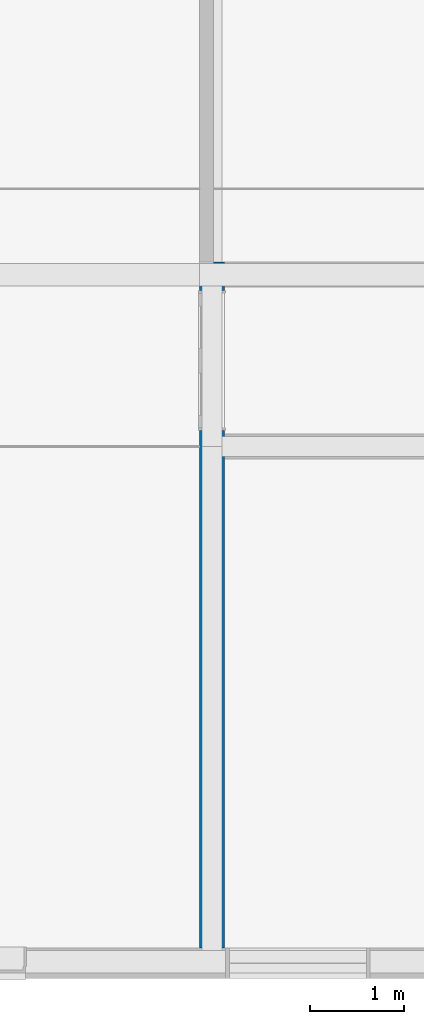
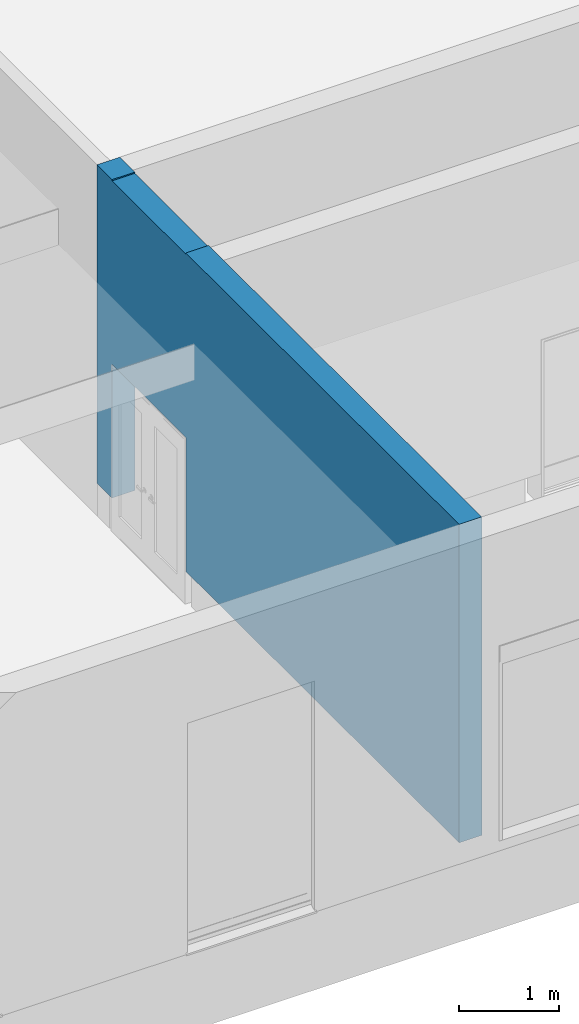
# One storey, part 2 of 22: 1 wall, 2 openings.
"""IFC4X3 building model written with IfcOpenShell, lengths in millimetres."""

from ifc_helpers import new_model, entity, si_unit, converted_unit, derived_unit, direction, frame, frame_2d, origin, place, context, subcontext, project, spatial, rectangle, extrude, material, layer, layer_set, type_object, element, save


model = new_model("IFC4X3")

# Units and contexts
model_context = context("Model", 3, precision=0.01, world=origin(), true_north=direction((6.12303176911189e-17, 1.0)))
body_context = subcontext(model_context, "Body", "Model", "MODEL_VIEW")
ifc_project = project(units=[si_unit("LENGTHUNIT", "METRE", prefix="MILLI"), si_unit("AREAUNIT", "SQUARE_METRE"), si_unit("VOLUMEUNIT", "CUBIC_METRE"), converted_unit("PLANEANGLEUNIT", "DEGREE", entity("IfcPlaneAngleMeasure", 0.0174532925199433), si_unit("PLANEANGLEUNIT", "RADIAN"), dimensions=[0, 0, 0, 0, 0, 0, 0]), si_unit("MASSUNIT", "GRAM", prefix="KILO"), derived_unit("MASSDENSITYUNIT", [(si_unit("MASSUNIT", "GRAM", prefix="KILO"), 1), (si_unit("LENGTHUNIT", "METRE"), -3)]), derived_unit("IONCONCENTRATIONUNIT", [(si_unit("MASSUNIT", "GRAM", prefix="KILO"), 1), (si_unit("LENGTHUNIT", "METRE"), -3)]), derived_unit("MOMENTOFINERTIAUNIT", [(si_unit("LENGTHUNIT", "METRE"), 4)]), si_unit("TIMEUNIT", "SECOND"), si_unit("FREQUENCYUNIT", "HERTZ"), si_unit("THERMODYNAMICTEMPERATUREUNIT", "DEGREE_CELSIUS"), derived_unit("THERMALTRANSMITTANCEUNIT", [(si_unit("MASSUNIT", "GRAM", prefix="KILO"), 1), (si_unit("THERMODYNAMICTEMPERATUREUNIT", "KELVIN"), -1), (si_unit("TIMEUNIT", "SECOND"), -3)]), derived_unit("THERMALCONDUCTANCEUNIT", [(si_unit("MASSUNIT", "GRAM", prefix="KILO"), 1), (si_unit("THERMODYNAMICTEMPERATUREUNIT", "KELVIN"), -1), (si_unit("TIMEUNIT", "SECOND"), -3), (si_unit("LENGTHUNIT", "METRE"), 1)]), derived_unit("VOLUMETRICFLOWRATEUNIT", [(si_unit("LENGTHUNIT", "METRE", prefix="DECI"), 3), (si_unit("TIMEUNIT", "SECOND"), -1)]), derived_unit("MASSFLOWRATEUNIT", [(si_unit("MASSUNIT", "GRAM", prefix="KILO"), 1), (si_unit("TIMEUNIT", "SECOND"), -1)]), derived_unit("ROTATIONALFREQUENCYUNIT", [(si_unit("TIMEUNIT", "SECOND"), -1)]), si_unit("ELECTRICCURRENTUNIT", "AMPERE"), si_unit("ELECTRICVOLTAGEUNIT", "VOLT"), si_unit("POWERUNIT", "WATT"), si_unit("FORCEUNIT", "NEWTON", prefix="KILO"), si_unit("ILLUMINANCEUNIT", "LUX"), si_unit("LUMINOUSFLUXUNIT", "LUMEN"), si_unit("LUMINOUSINTENSITYUNIT", "CANDELA"), si_unit("ENERGYUNIT", "JOULE"), derived_unit("USERDEFINED", [(si_unit("MASSUNIT", "GRAM", prefix="KILO"), -1), (si_unit("LENGTHUNIT", "METRE"), -2), (si_unit("TIMEUNIT", "SECOND"), 3), (si_unit("LUMINOUSFLUXUNIT", "LUMEN"), 1)]), derived_unit("USERDEFINED", [(si_unit("MASSUNIT", "GRAM", prefix="KILO"), 1), (si_unit("TIMEUNIT", "SECOND"), -3), (si_unit("LENGTHUNIT", "METRE"), 3), (si_unit("ELECTRICCURRENTUNIT", "AMPERE"), -2)]), derived_unit("SOUNDPOWERUNIT", [(si_unit("MASSUNIT", "GRAM", prefix="KILO"), 1), (si_unit("TIMEUNIT", "SECOND"), -3), (si_unit("LENGTHUNIT", "METRE"), 2)]), derived_unit("SOUNDPRESSUREUNIT", [(si_unit("MASSUNIT", "GRAM", prefix="KILO"), 1), (si_unit("LENGTHUNIT", "METRE"), -1), (si_unit("TIMEUNIT", "SECOND"), -2)]), derived_unit("LINEARVELOCITYUNIT", [(si_unit("LENGTHUNIT", "METRE"), 1), (si_unit("TIMEUNIT", "SECOND"), -1)]), si_unit("PRESSUREUNIT", "PASCAL"), derived_unit("USERDEFINED", [(si_unit("MASSUNIT", "GRAM", prefix="KILO"), 1), (si_unit("LENGTHUNIT", "METRE"), -2), (si_unit("TIMEUNIT", "SECOND"), -2)]), derived_unit("LINEARFORCEUNIT", [(si_unit("MASSUNIT", "GRAM", prefix="KILO"), 1), (si_unit("TIMEUNIT", "SECOND"), -2)]), derived_unit("PLANARFORCEUNIT", [(si_unit("MASSUNIT", "GRAM", prefix="KILO"), 1), (si_unit("LENGTHUNIT", "METRE"), -1), (si_unit("TIMEUNIT", "SECOND"), -2)]), derived_unit("SPECIFICHEATCAPACITYUNIT", [(si_unit("THERMODYNAMICTEMPERATUREUNIT", "KELVIN"), -1), (si_unit("LENGTHUNIT", "METRE"), 2), (si_unit("TIMEUNIT", "SECOND"), -2)]), derived_unit("HEATFLUXDENSITYUNIT", [(si_unit("MASSUNIT", "GRAM", prefix="KILO"), 1), (si_unit("TIMEUNIT", "SECOND"), -3)]), derived_unit("HEATINGVALUEUNIT", [(si_unit("LENGTHUNIT", "METRE"), 2), (si_unit("TIMEUNIT", "SECOND"), -2)]), derived_unit("VAPORPERMEABILITYUNIT", [(si_unit("LENGTHUNIT", "METRE"), -1), (si_unit("TIMEUNIT", "SECOND"), 1)]), derived_unit("DYNAMICVISCOSITYUNIT", [(si_unit("MASSUNIT", "GRAM", prefix="KILO"), 1), (si_unit("TIMEUNIT", "SECOND"), -1), (si_unit("LENGTHUNIT", "METRE"), -1)]), derived_unit("THERMALEXPANSIONCOEFFICIENTUNIT", [(si_unit("THERMODYNAMICTEMPERATUREUNIT", "KELVIN"), -1)]), derived_unit("MODULUSOFELASTICITYUNIT", [(si_unit("MASSUNIT", "GRAM", prefix="KILO"), 1), (si_unit("LENGTHUNIT", "METRE"), -1), (si_unit("TIMEUNIT", "SECOND"), -2)]), derived_unit("ISOTHERMALMOISTURECAPACITYUNIT", [(si_unit("MASSUNIT", "GRAM", prefix="KILO"), -1), (si_unit("LENGTHUNIT", "METRE"), 3)]), derived_unit("MOISTUREDIFFUSIVITYUNIT", [(si_unit("TIMEUNIT", "SECOND"), -1), (si_unit("LENGTHUNIT", "METRE"), 2)]), derived_unit("AREADENSITYUNIT", [(si_unit("MASSUNIT", "GRAM", prefix="KILO"), 1), (si_unit("LENGTHUNIT", "METRE"), 2)]), derived_unit("MASSPERLENGTHUNIT", [(si_unit("MASSUNIT", "GRAM", prefix="KILO"), 1), (si_unit("LENGTHUNIT", "METRE"), -1)]), derived_unit("THERMALRESISTANCEUNIT", [(si_unit("MASSUNIT", "GRAM", prefix="KILO"), -1), (si_unit("TIMEUNIT", "SECOND"), 3), (si_unit("THERMODYNAMICTEMPERATUREUNIT", "KELVIN"), 1)]), derived_unit("ACCELERATIONUNIT", [(si_unit("LENGTHUNIT", "METRE"), 1), (si_unit("TIMEUNIT", "SECOND"), -2)]), derived_unit("ANGULARVELOCITYUNIT", [(si_unit("TIMEUNIT", "SECOND"), -1), (si_unit("PLANEANGLEUNIT", "RADIAN"), 1)]), derived_unit("LINEARSTIFFNESSUNIT", [(si_unit("MASSUNIT", "GRAM", prefix="KILO"), 1), (si_unit("TIMEUNIT", "SECOND"), -2)]), derived_unit("WARPINGCONSTANTUNIT", [(si_unit("LENGTHUNIT", "METRE"), 6)]), derived_unit("LINEARMOMENTUNIT", [(si_unit("MASSUNIT", "GRAM", prefix="KILO"), 1), (si_unit("LENGTHUNIT", "METRE"), 1), (si_unit("TIMEUNIT", "SECOND"), -2)]), derived_unit("TORQUEUNIT", [(si_unit("MASSUNIT", "GRAM", prefix="KILO"), 1), (si_unit("LENGTHUNIT", "METRE"), 2), (si_unit("TIMEUNIT", "SECOND"), -2)])], contexts=[model_context])

# Site, building, storey
site_placement = place(None, origin())
site = spatial("IfcSite", under=ifc_project, at=site_placement, Name="Default", CompositionType="ELEMENT")
building_placement = place(site_placement, origin())
building = spatial("IfcBuilding", under=site, at=building_placement, Name="事務所ビル", CompositionType="ELEMENT")
storey_placement = place(building_placement, origin())
storey = spatial("IfcBuildingStorey", under=building, at=storey_placement, Name="1FL", CompositionType="ELEMENT", Elevation=0.0)

# Wall, openings
ifc_material_1 = material(Name="せっこうボード", Category="一般")
ifc_layer_1 = layer(ifc_material_1, 15.0, Name="せっこうボード", Category="一般")
ifc_material_2 = material(Name="合板", Category="一般")
ifc_layer_2 = layer(ifc_material_2, 12.0, Name="合板", Category="一般")
ifc_material_3 = material(Name="天然木材", Category="一般")
ifc_layer_3 = layer(ifc_material_3, 210.0, Name="天然木材", Category="一般")
ifc_layer_4 = layer(ifc_material_2, 12.0, Name="合板", Category="一般")
ifc_layer_5 = layer(ifc_material_1, 15.0, Name="せっこうボード", Category="一般")
ifc_layer_set = layer_set([ifc_layer_1, ifc_layer_2, ifc_layer_3, ifc_layer_4, ifc_layer_5], Name="標準壁:GB-R15_構造用合板12_木210_構造用合板12_GB-R15")
wall_type = type_object("IfcWallType", Name="標準壁:GB-R15_構造用合板12_木210_構造用合板12_GB-R15", PredefinedType="STANDARD", material=ifc_layer_set)
wall_placement = place(storey_placement, frame((10920.0, 147.0, 400.0), z_axis=(0.0, 0.0, 1.0), x_axis=(0.0, 1.0, 0.0)))
wall = element("IfcWall", 1, at=wall_placement, inside=storey, type_object=wall_type, material=ifc_layer_set, Name="標準壁:GB-R15_構造用合板12_木210_構造用合板12_GB-R15", ObjectType="標準壁:GB-R15_構造用合板12_木210_構造用合板12_GB-R15", PredefinedType="NOTDEFINED", context=body_context, shape_type="SweptSolid", body=[
    extrude(rectangle(XDim=7265.00000000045, YDim=264.000000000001, at=frame_2d((3632.50000000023, -1.4210854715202e-14), x_axis=(-1.0, 0.0))), origin(), (0.0, 0.0, 1.0), 3900.0),
])
opening_1_placement = place(wall_placement, frame((-147.0, 10920.0, 3900.0)))
element("IfcOpeningElement", 2, at=opening_1_placement, cuts=wall, Name="標準壁:GB-R15_構造用合板12_木210_構造用合板12_GB-R15", PredefinedType="OPENING", context=body_context, shape_type="SweptSolid", body=[
    extrude(rectangle(XDim=2055.00000000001, YDim=1480.0, at=frame_2d((0.0, 0.0), x_axis=(0.0, 1.0))), frame((6370.0, -12576.0, 1012.49999999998), z_axis=(0.0, 1.0, 0.0), x_axis=(1.0, 0.0, 0.0)), (0.0, 0.0, 1.0), 3048.0),
])
opening_2_placement = place(wall_placement, frame((5483.0, -132.0, -415.0)))
element("IfcOpeningElement", 3, at=opening_2_placement, cuts=wall, Name="鋼製_大枠_両開き_框:1400x2000:1", PredefinedType="OPENING", context=body_context, shape_type="SweptSolid", body=[
    extrude(rectangle(XDim=2055.00000000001, YDim=1480.0, at=frame_2d((1027.5, 740.0), x_axis=(-1.0, 0.0))), frame((0.0, 0.0, 0.0), z_axis=(0.0, 1.0, 0.0), x_axis=(0.0, 0.0, 1.0)), (0.0, 0.0, 1.0), 264.0),
])

save(model, "model.ifc")
